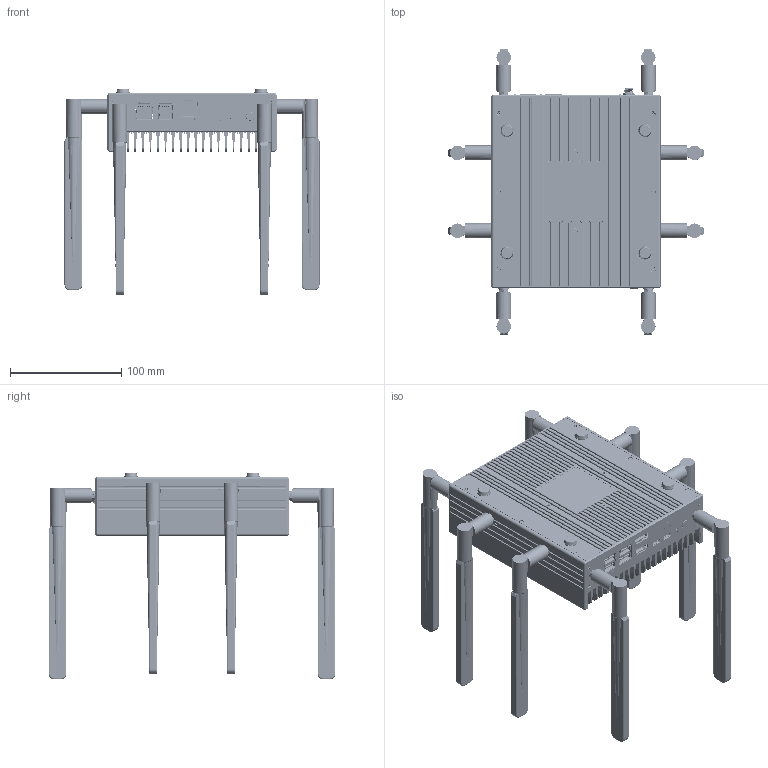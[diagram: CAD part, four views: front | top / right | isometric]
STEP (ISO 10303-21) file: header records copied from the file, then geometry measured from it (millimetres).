
FILE_DESCRIPTION((''),'2;1');
FILE_NAME('N31-3D-2025-4-24_ASM','2025-07-30T',('WL'),(''),'PRO/ENGINEER BY PARAMETRIC TECHNOLOGY CORPORATION, 2010280','PRO/ENGINEER BY PARAMETRIC TECHNOLOGY CORPORATION, 2010280','');
FILE_SCHEMA(('AUTOMOTIVE_DESIGN { 1 0 10303 214 1 1 1 1 }'));
Products named in the file (115): N31XC-2024-12-30; N31XC2-2024-12-30; QMB-2024-12-31-1; HMB-2024-12-31-1; 2024-7-29-019C20_16; POWER-2022-7-6_BSY31C199C20_16; MANIFOLD_SOLID_BEP1__C299C20_16; MANIFOLD_SOLID_BEP90C199C20_16; POWER-2022-10-11__31C299C20_16_ASM; POWER-2024-7-299C20_16_ASM; RST-2024-7-299C20_16; TYPE-C-2_62B31C16299C20_16; TYPE-C-3_62B31C16299C20_16; TYPE-C-2024-7-299C20_16_ASM; HDMI-DP-2023-2-131-1C199C20_16; HDMI-B-2023-2-131-1316299C20_16; DP-01-_A-2023-2-131-13199C20_16; HDMI-DP-2024-7-299C20_16_ASM; USB-3-0-A_1_1_110112_2B9C20_16; USB-3-0-1_1_1_31011262B2C20_16; USB20-2024-7-299C20_16_ASM; DC-L8-5MM-222316; DC-L8-5MM-2222316; DC-L8-5MM-2024-8-2316_ASM; LED-2022-7-6_BSY_101_62B9C20_16; 2022-10-11-15_101_62B299C20_16; 2022-10-11-16_101_62B299C20_16; LED-2024-7-299C20_16_ASM; SIM-2024-7-299C20_16; SIM-MINI-2024-8-22_16; LAN-6-2022-7-7_BSY_4_219B16; 2022-10-12-01_4_219B16; 2022-10-12-02_4_219B16; 2022-10-12-03_4_219B16_ASM; LAN-1-2022-10-18_4_219B16; 2LAN-2024-10-16_ASM; SFP-2024-10-16; CPU-N100-2024-7-299C20_16; CPU-SFP-2024-10-16; CNS-2024-12-30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
Assembly tree (172 placements, depth 6):
  N31-3D-2025-4-24_ASM
    N31XC-2024-12-30
    N31XC2-2024-12-30
    QMB-2024-12-31-1
    HMB-2024-12-31-1
    PCB-PR-ALNDZ4L-N100-2024-8-2316_ASM
      2024-7-29-019C20_16
      POWER-2024-7-299C20_16_ASM
        POWER-2022-7-6_BSY31C199C20_16
        POWER-2022-10-11__31C299C20_16_ASM
          MANIFOLD_SOLID_BEP1__C299C20_16
          MANIFOLD_SOLID_BEP90C199C20_16
      RST-2024-7-299C20_16
      TYPE-C-2024-7-299C20_16_ASM  x2
        TYPE-C-2_62B31C16299C20_16
        TYPE-C-3_62B31C16299C20_16
      HDMI-DP-2024-7-299C20_16_ASM
        HDMI-DP-2023-2-131-1C199C20_16
        HDMI-B-2023-2-131-1316299C20_16
        DP-01-_A-2023-2-131-13199C20_16
      USB20-2024-7-299C20_16_ASM  x2
        USB-3-0-A_1_1_110112_2B9C20_16
        USB-3-0-1_1_1_31011262B2C20_16
      DC-L8-5MM-2024-8-2316_ASM
        DC-L8-5MM-222316
        DC-L8-5MM-2222316
      LED-2024-7-299C20_16_ASM  x3
        LED-2022-7-6_BSY_101_62B9C20_16
        2022-10-11-15_101_62B299C20_16
        2022-10-11-16_101_62B299C20_16
      SIM-2024-7-299C20_16
      SIM-MINI-2024-8-22_16
      2LAN-2024-10-16_ASM
        LAN-6-2022-7-7_BSY_4_219B16
        2022-10-12-03_4_219B16_ASM  x2
          2022-10-12-01_4_219B16
          2022-10-12-02_4_219B16
        LAN-1-2022-10-18_4_219B16  x2
      SFP-2024-10-16  x2
      CPU-N100-2024-7-299C20_16
      CPU-SFP-2024-10-16
      CNS-2024-12-30
      DDR5-9MM-2024-7-299C20_16_ASM
        DDR3-C-_10931C16299C20_16
        DDR5-B-_10931C16299C20_16
      M-2-2280-2024-7-299C20_16_ASM
        M_2_KEY-B_H8P5-SOL1093199C20_16
        M2-HDD-_10931C16299C20_16
      M-2-3052-2024-7-299C20_16_ASM
        M_2_KEY-B_H8P5-1-L_82C199C20_16
        M2-5G-2023-10-31C16299C20_16
        M2-5G-3052-2024-8-89C20_16_ASM
          M_2_KEY-B_H8P5-1-4_8_62B9C20_16
          M2-HDD-98__-_62B889C20_16
          M2X4-YT-2024-8-89C20_16  x2
      2-54-2024-7-299C20_16
      2-0-C-2024-7-299C20_16  x2
      TPM-2024-7-299C20_16_ASM
        TPM_1299C20_16_ASM
          C_0603_1608METRIC299C20_16_ASM  x7
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Bounding box: 229.3 x 257.8 x 185.65 mm (x, y, z)
Volume: 885526.6 mm3; surface area: 588131.8 mm2
Topology: 370 solids, 385 shells, 25097 faces, 66535 edges, 43396 vertices
Faces by surface type: plane 17870, cylinder 4236, cone 1022, extrusion 830, bspline 680, torus 313, sphere 146
Entity records: 854355 total; most frequent: CARTESIAN_POINT 150095, ORIENTED_EDGE 106268, DIRECTION 95702, PRESENTATION_STYLE_ASSIGNMENT 56732, EDGE_CURVE 53158, STYLED_ITEM 52264, CURVE_STYLE 51327, VECTOR 44310
